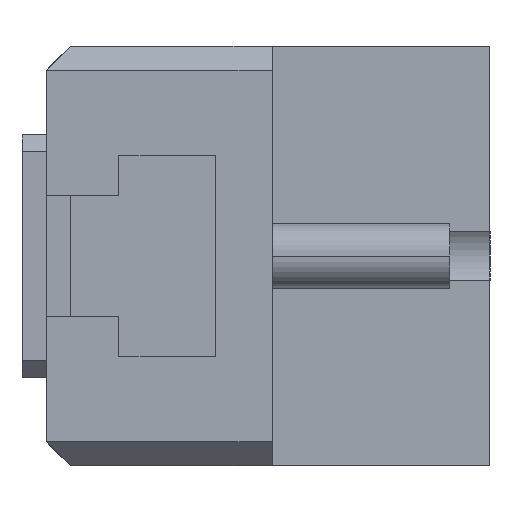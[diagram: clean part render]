
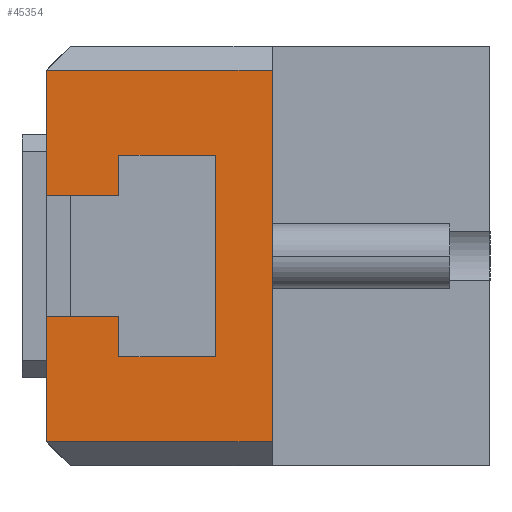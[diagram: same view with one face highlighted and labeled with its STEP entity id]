
A CAD part, left-side view. The second image highlights one B-rep face of the part: STEP entity #45354.
In plain terms, the highlighted planar face has unit normal (-1, 0, 0).
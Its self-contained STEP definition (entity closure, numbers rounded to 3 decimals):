
#985 = LINE ( 'NONE', #2935, #20102 ) ;
#1542 = CARTESIAN_POINT ( 'NONE',  ( -50., 46., -7.5 ) ) ;
#1577 = CARTESIAN_POINT ( 'NONE',  ( -50., 55., -12.5 ) ) ;
#1755 = LINE ( 'NONE', #43759, #20887 ) ;
#1884 = VERTEX_POINT ( 'NONE', #15285 ) ;
#2438 = CARTESIAN_POINT ( 'NONE',  ( -50., 55., 26. ) ) ;
#2642 = DIRECTION ( 'NONE',  ( 0., 1., 0. ) ) ;
#2935 = CARTESIAN_POINT ( 'NONE',  ( -50., 55., 26. ) ) ;
#3443 = EDGE_CURVE ( 'NONE', #17607, #35451, #20491, .T. ) ;
#3987 = VERTEX_POINT ( 'NONE', #23690 ) ;
#5205 = LINE ( 'NONE', #11174, #44679 ) ;
#7135 = EDGE_CURVE ( 'NONE', #19180, #33094, #29368, .T. ) ;
#7325 = DIRECTION ( 'NONE',  ( 0., 1., 0. ) ) ;
#7606 = CARTESIAN_POINT ( 'NONE',  ( -50., 27., -23. ) ) ;
#7672 = DIRECTION ( 'NONE',  ( 0., 0., -1. ) ) ;
#8439 = AXIS2_PLACEMENT_3D ( 'NONE', #12409, #39144, #16243 ) ;
#8464 = EDGE_CURVE ( 'NONE', #11824, #43927, #46076, .T. ) ;
#8737 = ORIENTED_EDGE ( 'NONE', *, *, #19787, .F. ) ;
#8914 = VECTOR ( 'NONE', #25544, 1000. ) ;
#10172 = DIRECTION ( 'NONE',  ( 0., -1., 0. ) ) ;
#11086 = CARTESIAN_POINT ( 'NONE',  ( -50., 27., 23. ) ) ;
#11107 = VERTEX_POINT ( 'NONE', #15753 ) ;
#11174 = CARTESIAN_POINT ( 'NONE',  ( -50., 55., 7.5 ) ) ;
#11523 = EDGE_CURVE ( 'NONE', #35451, #38644, #13637, .T. ) ;
#11824 = VERTEX_POINT ( 'NONE', #7606 ) ;
#11872 = ORIENTED_EDGE ( 'NONE', *, *, #36729, .F. ) ;
#12409 = CARTESIAN_POINT ( 'NONE',  ( -50., 55., 26. ) ) ;
#12545 = DIRECTION ( 'NONE',  ( 0., 0., 1. ) ) ;
#13477 = LINE ( 'NONE', #19394, #23625 ) ;
#13637 = LINE ( 'NONE', #43287, #16392 ) ;
#14960 = LINE ( 'NONE', #21214, #34086 ) ;
#15285 = CARTESIAN_POINT ( 'NONE',  ( -50., 46., 12.5 ) ) ;
#15753 = CARTESIAN_POINT ( 'NONE',  ( -50., 55., 23. ) ) ;
#16243 = DIRECTION ( 'NONE',  ( 0., 1., 0. ) ) ;
#16392 = VECTOR ( 'NONE', #12545, 1000. ) ;
#16599 = FACE_OUTER_BOUND ( 'NONE', #38992, .T. ) ;
#17607 = VERTEX_POINT ( 'NONE', #30230 ) ;
#17645 = VECTOR ( 'NONE', #27055, 1000. ) ;
#17994 = VECTOR ( 'NONE', #10172, 1000. ) ;
#19180 = VERTEX_POINT ( 'NONE', #47058 ) ;
#19365 = CARTESIAN_POINT ( 'NONE',  ( -50., 46., 26. ) ) ;
#19394 = CARTESIAN_POINT ( 'NONE',  ( -50., 46., 26. ) ) ;
#19787 = EDGE_CURVE ( 'NONE', #38644, #1884, #48361, .T. ) ;
#20102 = VECTOR ( 'NONE', #48892, 1000. ) ;
#20491 = LINE ( 'NONE', #1577, #43231 ) ;
#20887 = VECTOR ( 'NONE', #2642, 1000. ) ;
#21214 = CARTESIAN_POINT ( 'NONE',  ( -50., 55., 23. ) ) ;
#21526 = ORIENTED_EDGE ( 'NONE', *, *, #42055, .F. ) ;
#22320 = ORIENTED_EDGE ( 'NONE', *, *, #7135, .F. ) ;
#23580 = EDGE_CURVE ( 'NONE', #38803, #11107, #985, .T. ) ;
#23625 = VECTOR ( 'NONE', #7672, 1000. ) ;
#23690 = CARTESIAN_POINT ( 'NONE',  ( -50., 46., 7.5 ) ) ;
#24637 = EDGE_CURVE ( 'NONE', #1884, #3987, #27852, .T. ) ;
#25544 = DIRECTION ( 'NONE',  ( 0., 1., 0. ) ) ;
#27055 = DIRECTION ( 'NONE',  ( 0., 0., -1. ) ) ;
#27342 = LINE ( 'NONE', #2438, #46486 ) ;
#27852 = LINE ( 'NONE', #19365, #17645 ) ;
#28155 = ORIENTED_EDGE ( 'NONE', *, *, #23580, .F. ) ;
#28442 = ORIENTED_EDGE ( 'NONE', *, *, #8464, .T. ) ;
#28752 = CARTESIAN_POINT ( 'NONE',  ( -50., 27., 26. ) ) ;
#28874 = ORIENTED_EDGE ( 'NONE', *, *, #34509, .F. ) ;
#29021 = DIRECTION ( 'NONE',  ( 0., 0., -1. ) ) ;
#29368 = LINE ( 'NONE', #36911, #17994 ) ;
#30230 = CARTESIAN_POINT ( 'NONE',  ( -50., 46., -12.5 ) ) ;
#31145 = ORIENTED_EDGE ( 'NONE', *, *, #31491, .F. ) ;
#31491 = EDGE_CURVE ( 'NONE', #11824, #49031, #1755, .T. ) ;
#32162 = DIRECTION ( 'NONE',  ( 0., -1., 0. ) ) ;
#33094 = VERTEX_POINT ( 'NONE', #1542 ) ;
#33529 = ORIENTED_EDGE ( 'NONE', *, *, #3443, .F. ) ;
#34086 = VECTOR ( 'NONE', #44103, 1000. ) ;
#34094 = ORIENTED_EDGE ( 'NONE', *, *, #34839, .T. ) ;
#34509 = EDGE_CURVE ( 'NONE', #3987, #38803, #5205, .T. ) ;
#34839 = EDGE_CURVE ( 'NONE', #19180, #49031, #27342, .T. ) ;
#34951 = PLANE ( 'NONE',  #8439 ) ;
#35451 = VERTEX_POINT ( 'NONE', #47329 ) ;
#35882 = VECTOR ( 'NONE', #40283, 1000. ) ;
#36729 = EDGE_CURVE ( 'NONE', #33094, #17607, #13477, .T. ) ;
#36911 = CARTESIAN_POINT ( 'NONE',  ( -50., 55., -7.5 ) ) ;
#38644 = VERTEX_POINT ( 'NONE', #46285 ) ;
#38803 = VERTEX_POINT ( 'NONE', #44041 ) ;
#38992 = EDGE_LOOP ( 'NONE', ( #31145, #28442, #21526, #28155, #28874, #45229, #8737, #44087, #33529, #11872, #22320, #34094 ) ) ;
#39144 = DIRECTION ( 'NONE',  ( 1., 0., 0. ) ) ;
#40283 = DIRECTION ( 'NONE',  ( 0., 0., 1. ) ) ;
#42055 = EDGE_CURVE ( 'NONE', #11107, #43927, #14960, .T. ) ;
#43231 = VECTOR ( 'NONE', #32162, 1000. ) ;
#43287 = CARTESIAN_POINT ( 'NONE',  ( -50., 34., 26. ) ) ;
#43759 = CARTESIAN_POINT ( 'NONE',  ( -50., 55., -23. ) ) ;
#43927 = VERTEX_POINT ( 'NONE', #11086 ) ;
#44041 = CARTESIAN_POINT ( 'NONE',  ( -50., 55., 7.5 ) ) ;
#44087 = ORIENTED_EDGE ( 'NONE', *, *, #11523, .F. ) ;
#44103 = DIRECTION ( 'NONE',  ( 0., -1., 0. ) ) ;
#44679 = VECTOR ( 'NONE', #7325, 1000. ) ;
#44766 = CARTESIAN_POINT ( 'NONE',  ( -50., 55., 12.5 ) ) ;
#45229 = ORIENTED_EDGE ( 'NONE', *, *, #24637, .F. ) ;
#45354 = ADVANCED_FACE ( 'NONE', ( #16599 ), #34951, .F. ) ;
#46076 = LINE ( 'NONE', #28752, #35882 ) ;
#46285 = CARTESIAN_POINT ( 'NONE',  ( -50., 34., 12.5 ) ) ;
#46486 = VECTOR ( 'NONE', #29021, 1000. ) ;
#47058 = CARTESIAN_POINT ( 'NONE',  ( -50., 55., -7.5 ) ) ;
#47329 = CARTESIAN_POINT ( 'NONE',  ( -50., 34., -12.5 ) ) ;
#47600 = CARTESIAN_POINT ( 'NONE',  ( -50., 55., -23. ) ) ;
#48361 = LINE ( 'NONE', #44766, #8914 ) ;
#48892 = DIRECTION ( 'NONE',  ( 0., 0., 1. ) ) ;
#49031 = VERTEX_POINT ( 'NONE', #47600 ) ;
